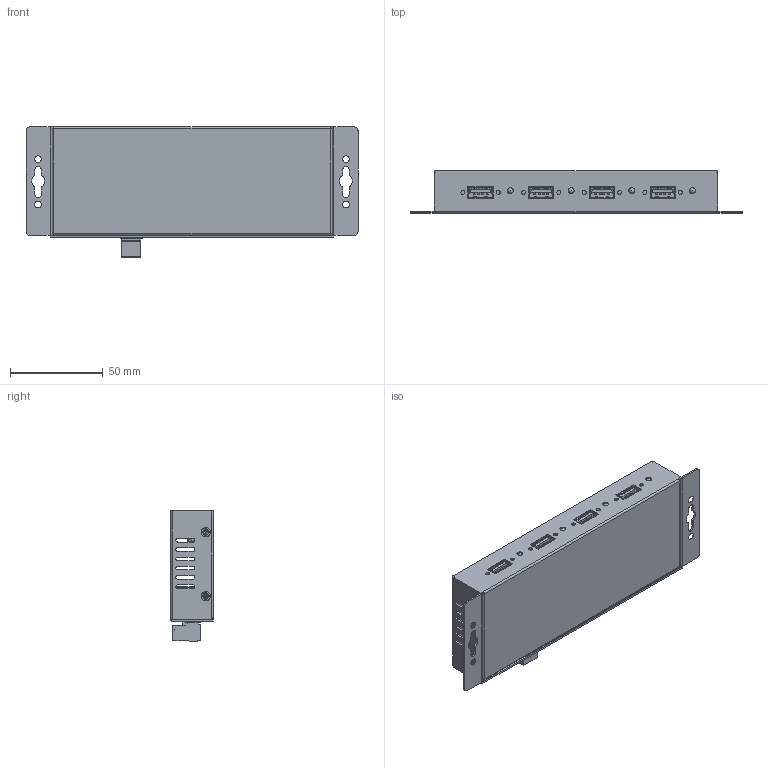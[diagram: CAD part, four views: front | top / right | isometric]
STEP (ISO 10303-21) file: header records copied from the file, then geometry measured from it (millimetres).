
FILE_DESCRIPTION(/* description */ (''),/* implementation_level */ '2;1');
FILE_NAME(/* name */ 'C:/Users/Leo/Desktop/AA CoolGear CADs/USBG-3X4m/USBG-3X4M Model3D LPV1.step',/* time_stamp */ '2021-06-14T10:34:12-04:00',/* author */ (''),/* organization */ (''),/* preprocessor_version */ 'ST-DEVELOPER v18.1',/* originating_system */ 'Autodesk Translation Framework v10.9.0.1377',/* authorisation */ '');
FILE_SCHEMA (('AUTOMOTIVE_DESIGN { 1 0 10303 214 3 1 1 }'));
Products named in the file (54): USBG-3X4M; Component1; 93090A571; Component4; LED 1 Block mounting pcb v2; Connector Volts Black plastic v2; Component1 (1); Component2; Component3 (1); Component4 (1); Connector green Phoenix 2 holes female 5.08 v1; Bolt M3X0.5 100Angle 5mmHead.5 China 120ang METRIC 18-8 SS FLAT HEAD 
PHIL MACHINE SCREW v2; LED 3mm v4 (1); 3mm_LED (1); led_energy (1) (1); led_energy (2); led_pin.1.1.1 (1) (1); led_pin.1.1.1 (2); led_pin.2.1 (1) (1); led_pin.2.1 (2); Connector green phoenix 2pines male 5.08 v6; Component51; LED 1 Block mounting pcb v2_1; LED 1 Block mounting pcb v2_2; LED 1 Block mounting pcb v2_3; User_Library-Led_3mm_Dialight_mod__551-1107F; USB type B Second Gen Blue.2Gen1 v2; Housing1; Housing2; pin1 (1); shielding (1); pin2 (1); shielding_2; Housing3; pin3; pin4; pin5; pin3_mir2; pin4_mir2; USB Type A Single Blue v1 ...
Assembly tree (106 placements, depth 5):
  USBG-3X4M
    Component1
    93090A571  x4
    Component4
    LED 1 Block mounting pcb v2
      User_Library-Led_3mm_Dialight_mod__551-1107F
    Connector Volts Black plastic v2
      Component1 (1)
      Component2
      Component3 (1)
      Component4 (1)
    Connector green Phoenix 2 holes female 5.08 v1
    Bolt M3X0.5 100Angle 5mmHead.5 China 120ang METRIC 18-8 SS FLAT HEAD 
PHIL MACHINE SCREW v2  x4
    LED 3mm v4 (1)
      3mm_LED (1)
        led_energy (1) (1)
          led_energy (2)
        led_pin.1.1.1 (1) (1)
          led_pin.1.1.1 (2)
        led_pin.2.1 (1) (1)
          led_pin.2.1 (2)
    Connector green phoenix 2pines male 5.08 v6
    Component51
    LED 1 Block mounting pcb v2_1
      User_Library-Led_3mm_Dialight_mod__551-1107F
    LED 1 Block mounting pcb v2_2
      User_Library-Led_3mm_Dialight_mod__551-1107F
    LED 1 Block mounting pcb v2_3
      User_Library-Led_3mm_Dialight_mod__551-1107F
    USB type B Second Gen Blue.2Gen1 v2
      Housing1
      Housing2
      pin1 (1)  x2
      shielding (1)
      pin2 (1)  x2
      shielding_2
      Housing3
      pin3
      pin4
      pin5
      pin3_mir2
      pin4_mir2
    USB Type A Single Blue v1
      Download_STP_692121030100_(rev1) (1)
        housing1 (1)
        pin1 (2)  x5
        housing2 (1)
        pin2 (2)  x2
        pin (1)  x2
        shielding (2)
    USB Type A Single Blue v1_1
      Download_STP_692121030100_(rev1) (1)_1
        housing1 (1)
        pin1 (2)  x5
        housing2 (1)
        pin2 (2)  x2
        pin (1)  x2
        shielding (2)
    USB Type A Single Blue v1_2
      Download_STP_692121030100_(rev1) (1)_2
Bounding box: 178.7 x 23 x 70.38 mm (x, y, z)
Volume: 49692.7 mm3; surface area: 90213.2 mm2
Topology: 2 solids, 50 shells, 6806 faces, 19784 edges, 12719 vertices
Faces by surface type: plane 5198, cylinder 1397, bspline 120, cone 78, sphere 11, torus 2
Full cylindrical faces by diameter (mm): 1.6 x2, 1.679 x1, 2.14 x10, 2.16 x1, 2.35 x16, 2.89 x4, 2.998 x1, 3 x24, 3.2 x8, 3.35 x1, 3.54 x1, 3.643 x1, 3.86 x2, 4.2 x4, 5.04 x2, 6 x1
Entity records: 234321 total; most frequent: CARTESIAN_POINT 50797, ORIENTED_EDGE 39534, DIRECTION 35838, EDGE_CURVE 19767, LINE 16384, VECTOR 16384, VERTEX_POINT 12719, AXIS2_PLACEMENT_3D 9727
